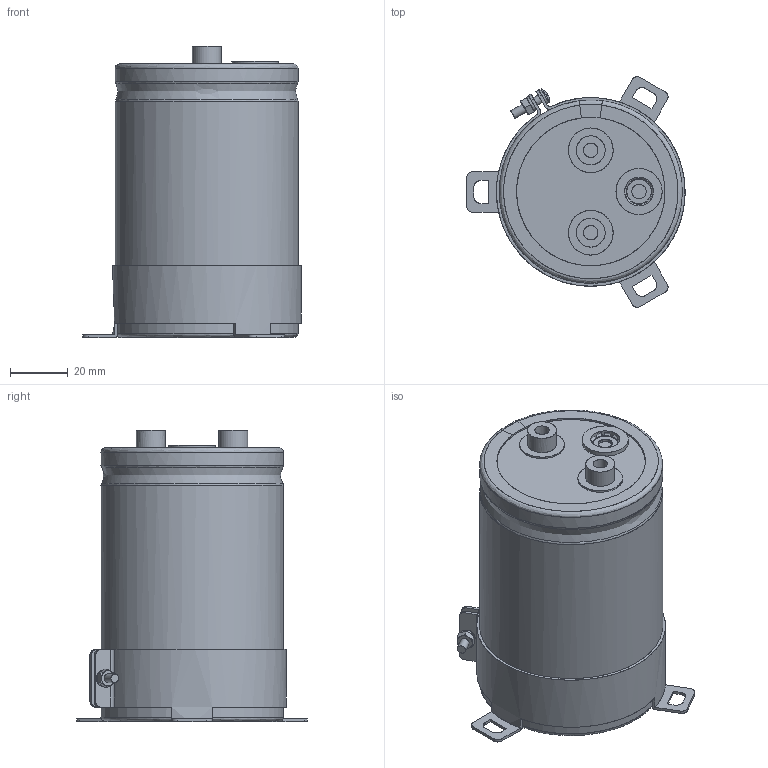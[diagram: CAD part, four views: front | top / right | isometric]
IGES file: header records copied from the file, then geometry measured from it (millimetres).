
Start section: JAMA-IS VERSION  1.0
Bounding box: 75.75 x 80.01 x 101 mm (x, y, z)
Surface area: 78018.3 mm2 (no closed solid volume)
Topology: 0 solids, 0 shells, 259 faces, 4436 edges, 4409 vertices
Faces by surface type: bspline 259
